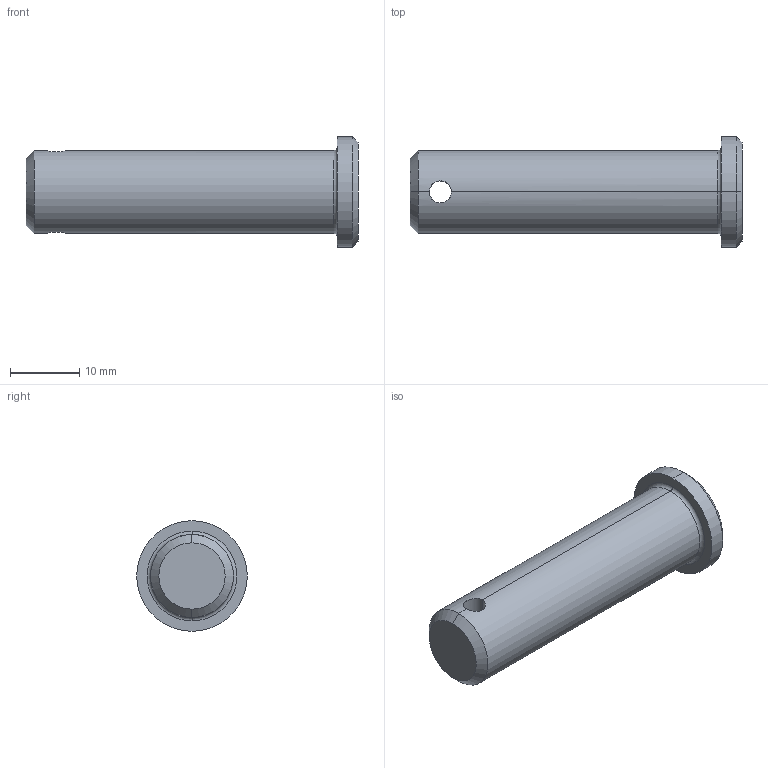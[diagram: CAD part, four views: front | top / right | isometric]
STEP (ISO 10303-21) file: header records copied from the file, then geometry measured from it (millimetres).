
FILE_DESCRIPTION (( 'STEP AP203' ), '1' );
FILE_NAME ('Wiberger-sms2360_12x45.step', '2012-10-09T08:57:38', ( 'Magnus' ), ( 'Wiberger' ), 'SwSTEP 2.0', 'SolidWorks 2011', '' );
FILE_SCHEMA (( 'CONFIG_CONTROL_DESIGN' ));
Length unit declared in the file: millimetre
Products named in the file (1): Wiberger-sms2360_12x45
Bounding box: 48 x 16 x 16 mm (x, y, z)
Volume: 5558.1 mm3; surface area: 2290.9 mm2
Topology: 1 solids, 1 shells, 15 faces, 32 edges, 18 vertices
Faces by surface type: cylinder 6, cone 4, plane 3, torus 2
Entity records: 579 total; most frequent: CARTESIAN_POINT 170, DIRECTION 76, ORIENTED_EDGE 64, EDGE_CURVE 32, AXIS2_PLACEMENT_3D 32, VERTEX_POINT 18, EDGE_LOOP 16, CIRCLE 16
